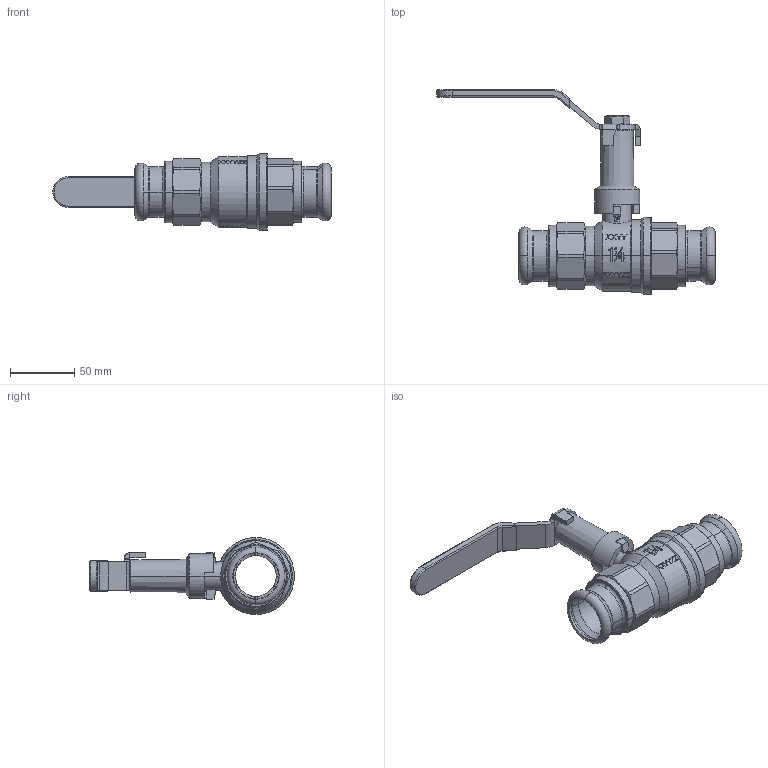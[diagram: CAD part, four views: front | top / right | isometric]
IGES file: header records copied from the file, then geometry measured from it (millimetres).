
Global section: file name: No Iges File Name specified; native system: AutoDesk Inventor R12.0; preprocessor: AutoDesk Inventor Iges Exporter R12.0; date: 20120118.164321; units: millimetre
Bounding box: 216.2 x 159.1 x 59.8 mm (x, y, z)
Volume: 202160.5 mm3; surface area: 74518.4 mm2
Topology: 1 solids, 1 shells, 953 faces, 2928 edges, 2089 vertices
Faces by surface type: plane 452, bspline 202, cylinder 104, revolution 97, cone 78, torus 20
